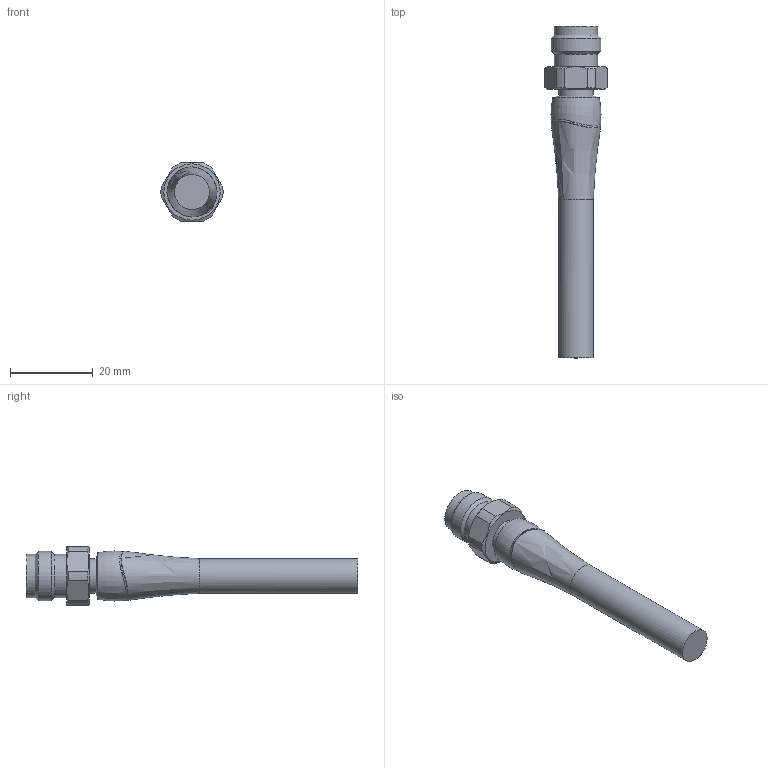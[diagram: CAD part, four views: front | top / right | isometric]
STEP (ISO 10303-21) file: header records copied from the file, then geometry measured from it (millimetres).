
FILE_DESCRIPTION (( 'STEP AP214' ), '1' );
FILE_NAME ('FICHE M12 MALE FOOD.STEP', '2021-10-14T10:14:55', ( '' ), ( '' ), 'SwSTEP 2.0', 'SolidWorks 2021', '' );
FILE_SCHEMA (( 'AUTOMOTIVE_DESIGN' ));
Length unit declared in the file: millimetre
Products named in the file (1): FICHE M12 MALE FOOD
Bounding box: 14.99 x 80.09 x 14 mm (x, y, z)
Volume: 5737.7 mm3; surface area: 3183.9 mm2
Topology: 1 solids, 1 shells, 84 faces, 193 edges, 120 vertices
Faces by surface type: bspline 30, plane 23, cylinder 21, cone 10
Full cylindrical faces by diameter (mm): 1 x5, 8.3 x1, 8.4 x2, 10.5 x2, 12 x1
Entity records: 3612 total; most frequent: CARTESIAN_POINT 1641, ORIENTED_EDGE 324, DIRECTION 236, EDGE_CURVE 162, EDGE_LOOP 116, VERTEX_POINT 112, AXIS2_PLACEMENT_3D 105, FACE_OUTER_BOUND 102
